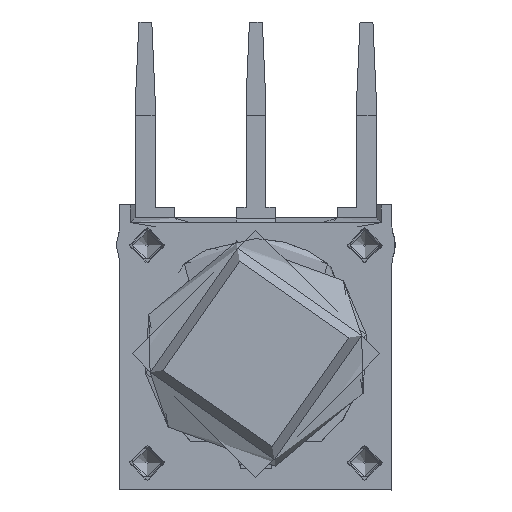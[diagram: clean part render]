
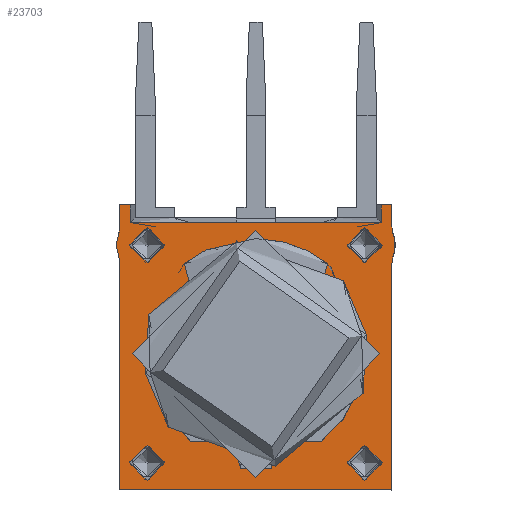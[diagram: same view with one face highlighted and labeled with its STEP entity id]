
A CAD part, left-side view. The second image highlights one B-rep face of the part: STEP entity #23703.
In plain terms, the highlighted planar face has unit normal (-1, 0, 0).
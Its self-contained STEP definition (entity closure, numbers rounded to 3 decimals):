
#2532=CIRCLE('',#27774,1.);
#2546=CIRCLE('',#27809,1.);
#2553=CIRCLE('',#27821,1.4);
#2555=CIRCLE('',#27824,1.4);
#2567=CIRCLE('',#27850,1.);
#2569=CIRCLE('',#27853,1.);
#2576=CIRCLE('',#27871,0.802);
#2577=CIRCLE('',#27873,0.802);
#2578=CIRCLE('',#27875,5.675);
#2579=CIRCLE('',#27877,0.802);
#2580=CIRCLE('',#27879,0.802);
#8136=ORIENTED_EDGE('',*,*,#11756,.T.);
#8137=ORIENTED_EDGE('',*,*,#11757,.T.);
#8138=ORIENTED_EDGE('',*,*,#11758,.T.);
#8139=ORIENTED_EDGE('',*,*,#11759,.T.);
#8140=ORIENTED_EDGE('',*,*,#11760,.T.);
#8141=ORIENTED_EDGE('',*,*,#11813,.T.);
#8142=ORIENTED_EDGE('',*,*,#11747,.T.);
#8143=ORIENTED_EDGE('',*,*,#11717,.F.);
#8144=ORIENTED_EDGE('',*,*,#11692,.F.);
#8145=ORIENTED_EDGE('',*,*,#11703,.F.);
#8146=ORIENTED_EDGE('',*,*,#11727,.F.);
#8147=ORIENTED_EDGE('',*,*,#11763,.T.);
#8148=ORIENTED_EDGE('',*,*,#11764,.T.);
#8149=ORIENTED_EDGE('',*,*,#11767,.T.);
#8150=ORIENTED_EDGE('',*,*,#11729,.F.);
#8151=ORIENTED_EDGE('',*,*,#11706,.F.);
#8152=ORIENTED_EDGE('',*,*,#11643,.F.);
#8153=ORIENTED_EDGE('',*,*,#11711,.F.);
#8154=ORIENTED_EDGE('',*,*,#11741,.T.);
#8155=ORIENTED_EDGE('',*,*,#11815,.T.);
#8156=ORIENTED_EDGE('',*,*,#11816,.F.);
#11643=EDGE_CURVE('',#14328,#14329,#2532,.F.);
#11692=EDGE_CURVE('',#14353,#14354,#2546,.F.);
#11703=EDGE_CURVE('',#14361,#14353,#2553,.T.);
#11706=EDGE_CURVE('',#14329,#14363,#2555,.T.);
#11711=EDGE_CURVE('',#14366,#14328,#16347,.T.);
#11717=EDGE_CURVE('',#14354,#14372,#16348,.T.);
#11727=EDGE_CURVE('',#14380,#14361,#2567,.F.);
#11729=EDGE_CURVE('',#14363,#14382,#2569,.F.);
#11741=EDGE_CURVE('',#14366,#14389,#16361,.T.);
#11747=EDGE_CURVE('',#14395,#14372,#16362,.T.);
#11756=EDGE_CURVE('',#14401,#14401,#2576,.F.);
#11757=EDGE_CURVE('',#14402,#14402,#2577,.F.);
#11758=EDGE_CURVE('',#14403,#14403,#2578,.T.);
#11759=EDGE_CURVE('',#14404,#14404,#2579,.F.);
#11760=EDGE_CURVE('',#14405,#14405,#2580,.F.);
#11763=EDGE_CURVE('',#14380,#14407,#16368,.T.);
#11764=EDGE_CURVE('',#14407,#14408,#16369,.T.);
#11767=EDGE_CURVE('',#14408,#14382,#16372,.T.);
#11813=EDGE_CURVE('',#14434,#14395,#16405,.T.);
#11815=EDGE_CURVE('',#14389,#14435,#16407,.T.);
#11816=EDGE_CURVE('',#14434,#14435,#16408,.T.);
#14328=VERTEX_POINT('',#43153);
#14329=VERTEX_POINT('',#43155);
#14353=VERTEX_POINT('',#43278);
#14354=VERTEX_POINT('',#43280);
#14361=VERTEX_POINT('',#43415);
#14363=VERTEX_POINT('',#43420);
#14366=VERTEX_POINT('',#43437);
#14372=VERTEX_POINT('',#43456);
#14380=VERTEX_POINT('',#43479);
#14382=VERTEX_POINT('',#43485);
#14389=VERTEX_POINT('',#43510);
#14395=VERTEX_POINT('',#43529);
#14401=VERTEX_POINT('',#43576);
#14402=VERTEX_POINT('',#43579);
#14403=VERTEX_POINT('',#43582);
#14404=VERTEX_POINT('',#43585);
#14405=VERTEX_POINT('',#43588);
#14407=VERTEX_POINT('',#43593);
#14408=VERTEX_POINT('',#43597);
#14434=VERTEX_POINT('',#43725);
#14435=VERTEX_POINT('',#43729);
#16347=LINE('',#43438,#18312);
#16348=LINE('',#43455,#18313);
#16361=LINE('',#43511,#18326);
#16362=LINE('',#43528,#18327);
#16368=LINE('',#43594,#18333);
#16369=LINE('',#43596,#18334);
#16372=LINE('',#43602,#18337);
#16405=LINE('',#43724,#18370);
#16407=LINE('',#43728,#18372);
#16408=LINE('',#43730,#18373);
#18312=VECTOR('',#33792,1000.);
#18313=VECTOR('',#33815,1000.);
#18326=VECTOR('',#33870,1000.);
#18327=VECTOR('',#33893,1000.);
#18333=VECTOR('',#33921,1000.);
#18334=VECTOR('',#33924,1000.);
#18337=VECTOR('',#33929,1000.);
#18370=VECTOR('',#34012,1000.);
#18372=VECTOR('',#34016,1000.);
#18373=VECTOR('',#34017,1000.);
#19992=EDGE_LOOP('',(#8136));
#19993=EDGE_LOOP('',(#8137));
#19994=EDGE_LOOP('',(#8138));
#19995=EDGE_LOOP('',(#8139));
#19996=EDGE_LOOP('',(#8140));
#19997=EDGE_LOOP('',(#8141,#8142,#8143,#8144,#8145,#8146,#8147,#8148,#8149,
#8150,#8151,#8152,#8153,#8154,#8155,#8156));
#21615=FACE_BOUND('',#19992,.T.);
#21616=FACE_BOUND('',#19993,.T.);
#21617=FACE_BOUND('',#19994,.T.);
#21618=FACE_BOUND('',#19995,.T.);
#21619=FACE_BOUND('',#19996,.T.);
#21620=FACE_BOUND('',#19997,.T.);
#22452=PLANE('',#27908);
#23703=ADVANCED_FACE('',(#21615,#21616,#21617,#21618,#21619,#21620),#22452,
 .T.);
#27774=AXIS2_PLACEMENT_3D('',#43154,#33655,#33656);
#27809=AXIS2_PLACEMENT_3D('',#43279,#33751,#33752);
#27821=AXIS2_PLACEMENT_3D('',#43416,#33777,#33778);
#27824=AXIS2_PLACEMENT_3D('',#43422,#33784,#33785);
#27850=AXIS2_PLACEMENT_3D('',#43480,#33843,#33844);
#27853=AXIS2_PLACEMENT_3D('',#43484,#33849,#33850);
#27871=AXIS2_PLACEMENT_3D('',#43575,#33899,#33900);
#27873=AXIS2_PLACEMENT_3D('',#43578,#33903,#33904);
#27875=AXIS2_PLACEMENT_3D('',#43581,#33907,#33908);
#27877=AXIS2_PLACEMENT_3D('',#43584,#33911,#33912);
#27879=AXIS2_PLACEMENT_3D('',#43587,#33915,#33916);
#27908=AXIS2_PLACEMENT_3D('',#43727,#34014,#34015);
#33655=DIRECTION('',(1.,0.,0.));
#33656=DIRECTION('',(0.,0.,-1.));
#33751=DIRECTION('',(1.,0.,0.));
#33752=DIRECTION('',(0.,0.,-1.));
#33777=DIRECTION('',(1.,0.,0.));
#33778=DIRECTION('',(0.,0.,-1.));
#33784=DIRECTION('',(1.,0.,0.));
#33785=DIRECTION('',(0.,0.,-1.));
#33792=DIRECTION('',(0.,1.,0.));
#33815=DIRECTION('',(0.,-1.,0.));
#33843=DIRECTION('',(1.,0.,0.));
#33844=DIRECTION('',(0.,0.,-1.));
#33849=DIRECTION('',(1.,0.,0.));
#33850=DIRECTION('',(0.,0.,-1.));
#33870=DIRECTION('',(0.,0.,1.));
#33893=DIRECTION('',(0.,0.,1.));
#33899=DIRECTION('',(-1.,0.,0.));
#33900=DIRECTION('',(0.,-1.,0.));
#33903=DIRECTION('',(-1.,0.,0.));
#33904=DIRECTION('',(0.,-1.,0.));
#33907=DIRECTION('',(1.,0.,0.));
#33908=DIRECTION('',(0.,1.,0.));
#33911=DIRECTION('',(-1.,0.,0.));
#33912=DIRECTION('',(0.,-1.,0.));
#33915=DIRECTION('',(-1.,0.,0.));
#33916=DIRECTION('',(0.,-1.,0.));
#33921=DIRECTION('',(0.,1.,0.));
#33924=DIRECTION('',(0.,0.,-1.));
#33929=DIRECTION('',(0.,-1.,0.));
#34012=DIRECTION('',(0.,-1.,0.));
#34014=DIRECTION('',(-1.,0.,0.));
#34015=DIRECTION('',(0.,-1.,0.));
#34016=DIRECTION('',(0.,1.,0.));
#34017=DIRECTION('',(0.,0.,-1.));
#43153=CARTESIAN_POINT('',(-8.279,-12.085,0.));
#43154=CARTESIAN_POINT('',(-8.279,-12.085,-1.));
#43155=CARTESIAN_POINT('',(-8.279,-11.737,-0.062));
#43278=CARTESIAN_POINT('',(-8.279,-11.737,12.563));
#43279=CARTESIAN_POINT('',(-8.279,-12.085,13.5));
#43280=CARTESIAN_POINT('',(-8.279,-12.085,12.5));
#43415=CARTESIAN_POINT('',(-8.279,-10.763,12.563));
#43416=CARTESIAN_POINT('',(-8.279,-11.25,11.25));
#43420=CARTESIAN_POINT('',(-8.279,-10.763,-0.063));
#43422=CARTESIAN_POINT('',(-8.279,-11.25,1.25));
#43437=CARTESIAN_POINT('',(-8.279,-13.1,0.));
#43438=CARTESIAN_POINT('',(-8.279,-13.1,0.));
#43455=CARTESIAN_POINT('',(-8.279,-13.1,12.5));
#43456=CARTESIAN_POINT('',(-8.279,-13.1,12.5));
#43479=CARTESIAN_POINT('',(-8.279,-10.415,12.5));
#43480=CARTESIAN_POINT('',(-8.279,-10.415,13.5));
#43484=CARTESIAN_POINT('',(-8.279,-10.415,-1.));
#43485=CARTESIAN_POINT('',(-8.279,-10.415,0.));
#43510=CARTESIAN_POINT('',(-8.279,-13.1,0.484));
#43511=CARTESIAN_POINT('',(-8.279,-13.1,-0.227));
#43528=CARTESIAN_POINT('',(-8.279,-13.1,-0.227));
#43529=CARTESIAN_POINT('',(-8.279,-13.1,12.016));
#43575=CARTESIAN_POINT('',(-8.279,-11.25,11.25));
#43576=CARTESIAN_POINT('',(-8.279,-12.052,11.25));
#43578=CARTESIAN_POINT('',(-8.279,-1.25,1.25));
#43579=CARTESIAN_POINT('',(-8.279,-2.052,1.25));
#43581=CARTESIAN_POINT('',(-8.279,-6.25,6.25));
#43582=CARTESIAN_POINT('',(-8.279,-0.575,6.25));
#43584=CARTESIAN_POINT('',(-8.279,-11.25,1.25));
#43585=CARTESIAN_POINT('',(-8.279,-12.052,1.25));
#43587=CARTESIAN_POINT('',(-8.279,-1.25,11.25));
#43588=CARTESIAN_POINT('',(-8.279,-2.052,11.25));
#43593=CARTESIAN_POINT('',(-8.279,0.,12.5));
#43594=CARTESIAN_POINT('',(-8.279,0.,12.5));
#43596=CARTESIAN_POINT('',(-8.279,0.,-0.227));
#43597=CARTESIAN_POINT('',(-8.279,0.,0.));
#43602=CARTESIAN_POINT('',(-8.279,0.,0.));
#43724=CARTESIAN_POINT('',(-8.279,0.,12.016));
#43725=CARTESIAN_POINT('',(-8.279,-12.284,12.016));
#43727=CARTESIAN_POINT('',(-8.279,0.,-0.227));
#43728=CARTESIAN_POINT('',(-8.279,0.,0.484));
#43729=CARTESIAN_POINT('',(-8.279,-12.284,0.484));
#43730=CARTESIAN_POINT('',(-8.279,-12.284,0.484));
